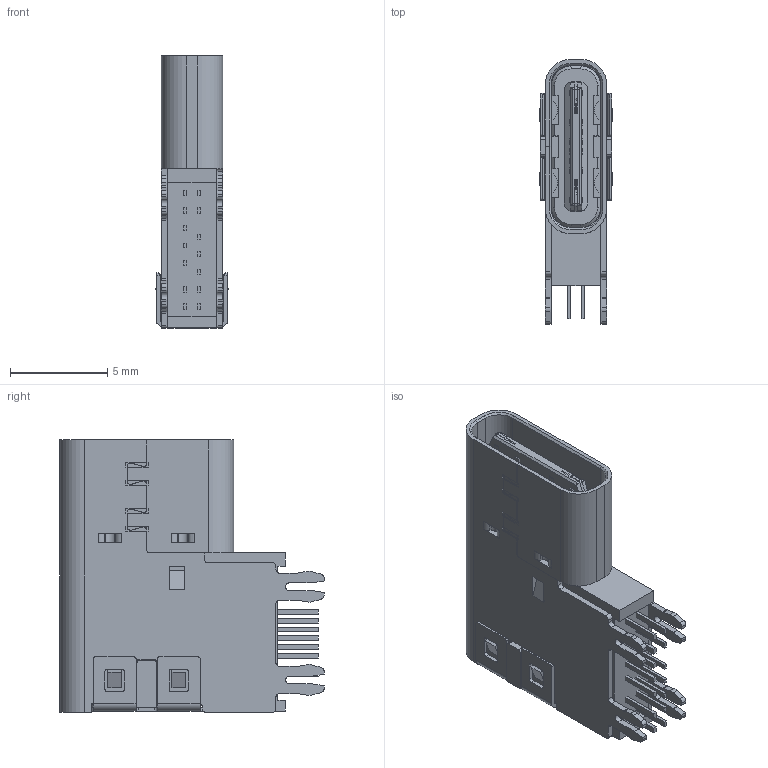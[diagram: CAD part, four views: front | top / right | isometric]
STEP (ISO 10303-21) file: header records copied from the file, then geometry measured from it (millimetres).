
FILE_DESCRIPTION (( 'STEP AP203' ), '1' );
FILE_NAME ('U5182-14PNY2.6G2.0J14.0L.STEP', '2026-09-21T07:45:02', ( '' ), ( '' ), 'SwSTEP 2.0', 'SolidWorks 2024', '' );
FILE_SCHEMA (( 'CONFIG_CONTROL_DESIGN' ));
Length unit declared in the file: millimetre
Products named in the file (2): U5182-14PNY2.6G2.0J14.0L; 2026090938
Assembly tree (1 placements, depth 2):
  U5182-14PNY2.6G2.0J14.0L
    2026090938
Bounding box: 3.76 x 13.6 x 14 mm (x, y, z)
Surface area: 1415 mm2 (no closed solid volume)
Topology: 0 solids, 18 shells, 996 faces, 2882 edges, 1927 vertices
Faces by surface type: plane 673, cylinder 291, bspline 32
Entity records: 33421 total; most frequent: CARTESIAN_POINT 6665, ORIENTED_EDGE 5732, DIRECTION 5321, EDGE_CURVE 2882, VECTOR 2177, LINE 2177, VERTEX_POINT 1927, AXIS2_PLACEMENT_3D 1572
